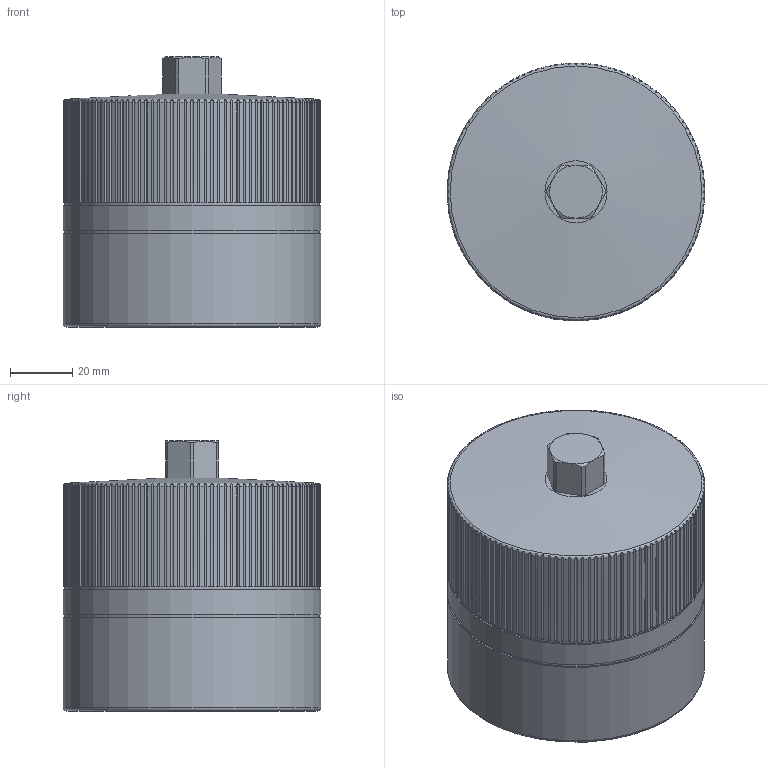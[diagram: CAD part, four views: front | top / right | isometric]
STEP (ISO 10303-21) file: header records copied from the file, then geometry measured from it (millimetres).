
FILE_DESCRIPTION( ( 'Unknown' ), '1' );
FILE_NAME( 'F:/JAKOB-STEP+IGES-Dateien/STEP-Dateien/MCA/MCA 150 - M30.stp', 'Unknown', ( 'Unknown' ), ( 'Unknown' ), 'XStep 1.0', 'Unknown', ' ' );
FILE_SCHEMA( ( 'CONFIG_CONTROL_DESIGN' ) );
Length unit declared in the file: millimetre
Products named in the file (1): 1
Bounding box: 83 x 83 x 87 mm (x, y, z)
Volume: 378208.1 mm3; surface area: 35699.5 mm2
Topology: 1 solids, 1 shells, 277 faces, 795 edges, 527 vertices
Faces by surface type: cylinder 251, plane 15, cone 9, torus 2
Full cylindrical faces by diameter (mm): 26.5 x1, 82 x2, 83 x2
Entity records: 11076 total; most frequent: CARTESIAN_POINT 3692, DIRECTION 1602, ORIENTED_EDGE 1568, EDGE_CURVE 784, AXIS2_PLACEMENT_3D 672, VERTEX_POINT 526, CIRCLE 394, EDGE_LOOP 294
